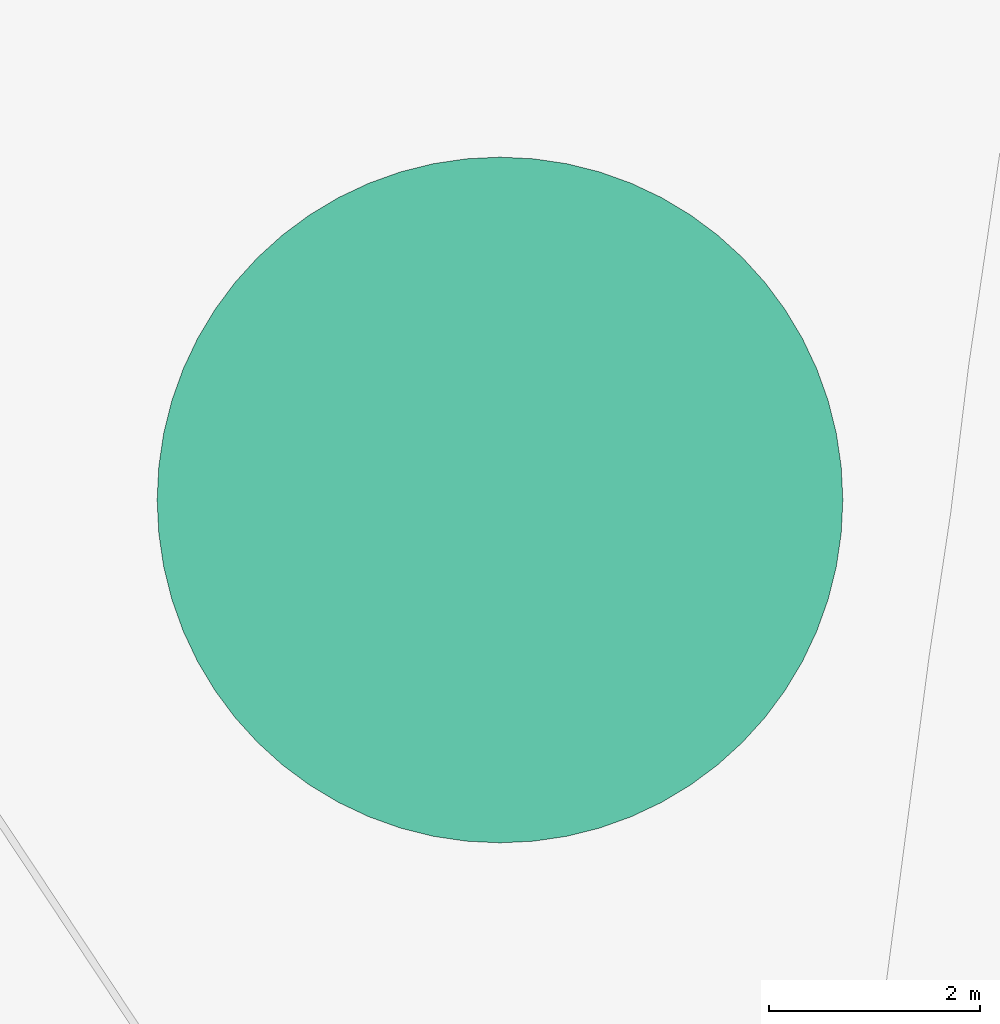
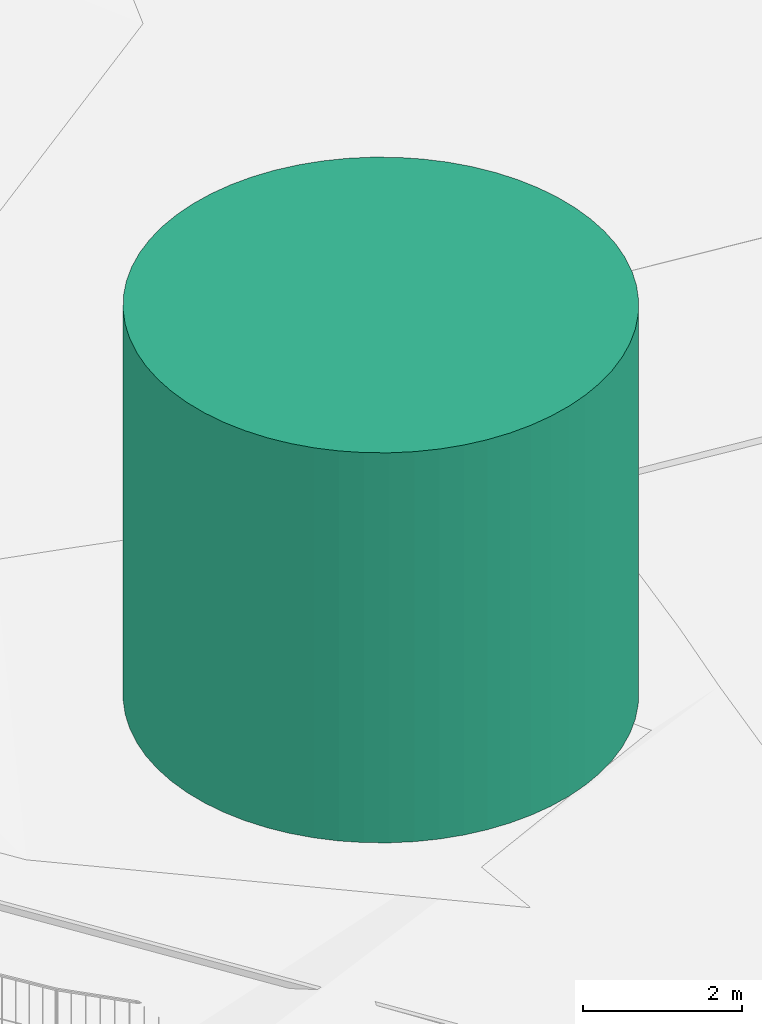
# Not in any storey, part 29 of 75: 1 tank.
"""IFC4 model written with IfcOpenShell, lengths in metres."""

from ifc_helpers import new_model, si_unit, direction, origin_with_axes, place, context, subcontext, project, spatial, triangles, element, save


model = new_model("IFC4")

# Units and contexts
model_context = context("Model", 3, precision=1e-05, world=origin_with_axes(), true_north=direction((0.0, 1.0)))
body_context = subcontext(model_context, "Body", "Model", "MODEL_VIEW")
ifc_project = project(units=[si_unit("AREAUNIT", "SQUARE_METRE"), si_unit("VOLUMEUNIT", "CUBIC_METRE"), si_unit("LENGTHUNIT", "METRE")], contexts=[model_context])

# Site
site_placement = place(None, origin_with_axes())
site = spatial("IfcSite", under=ifc_project, at=site_placement, Name="Parcela industrial Jinhong")

# Tank
tank_placement = place(site_placement, origin_with_axes())
element("IfcTank", 1, at=tank_placement, inside=site, Name="Depósito de agua contra incendios · altura provisional de 6 m", PredefinedType="STORAGE", context=body_context, shape_type="Tessellation", body=[
    triangles([(4.50035, 31.60764, 1.1), (7.75035, 31.60764, 1.1), (7.75035, 31.60764, 7.1), (4.50035, 31.60764, 7.1), (7.7347, 31.926196, 1.1), (7.7347, 31.926196, 7.1), (7.687902, 32.241684, 1.1), (7.687902, 32.241684, 7.1), (7.610406, 32.551065, 1.1), (7.610406, 32.551065, 7.1), (7.502958, 32.851361, 1.1), (7.502958, 32.851361, 7.1), (7.366594, 33.139679, 1.1), (7.366594, 33.139679, 7.1), (7.202626, 33.413243, 1.1), (7.202626, 33.413243, 7.1), (7.012634, 33.669418, 1.1), (7.012634, 33.669418, 7.1), (6.798447, 33.905737, 1.1), (6.798447, 33.905737, 7.1), (6.562128, 34.119924, 1.1), (6.562128, 34.119924, 7.1), (6.305953, 34.309916, 1.1), (6.305953, 34.309916, 7.1), (6.032389, 34.473884, 1.1), (6.032389, 34.473884, 7.1), (5.744071, 34.610248, 1.1), (5.744071, 34.610248, 7.1), (5.443775, 34.717696, 1.1), (5.443775, 34.717696, 7.1), (5.134394, 34.795192, 1.1), (5.134394, 34.795192, 7.1), (4.818906, 34.84199, 1.1), (4.818906, 34.84199, 7.1), (4.50035, 34.85764, 1.1), (4.50035, 34.85764, 7.1), (4.181794, 34.84199, 1.1), (4.181794, 34.84199, 7.1), (3.866306, 34.795192, 1.1), (3.866306, 34.795192, 7.1), (3.556925, 34.717696, 1.1), (3.556925, 34.717696, 7.1), (3.256629, 34.610248, 1.1), (3.256629, 34.610248, 7.1), (2.968311, 34.473884, 1.1), (2.968311, 34.473884, 7.1), (2.694747, 34.309916, 1.1), (2.694747, 34.309916, 7.1), (2.438572, 34.119924, 1.1), (2.438572, 34.119924, 7.1), (2.202253, 33.905737, 1.1), (2.202253, 33.905737, 7.1), (1.988066, 33.669418, 1.1), (1.988066, 33.669418, 7.1), (1.798074, 33.413243, 1.1), (1.798074, 33.413243, 7.1), (1.634106, 33.139679, 1.1), (1.634106, 33.139679, 7.1), (1.497742, 32.851361, 1.1), (1.497742, 32.851361, 7.1), (1.390294, 32.551065, 1.1), (1.390294, 32.551065, 7.1), (1.312798, 32.241684, 1.1), (1.312798, 32.241684, 7.1), (1.266, 31.926196, 1.1), (1.266, 31.926196, 7.1), (1.25035, 31.60764, 1.1), (1.25035, 31.60764, 7.1), (1.266, 31.289084, 1.1), (1.266, 31.289084, 7.1), (1.312798, 30.973596, 1.1), (1.312798, 30.973596, 7.1), (1.390294, 30.664215, 1.1), (1.390294, 30.664215, 7.1), (1.497742, 30.363919, 1.1), (1.497742, 30.363919, 7.1), (1.634106, 30.075601, 1.1), (1.634106, 30.075601, 7.1), (1.798074, 29.802037, 1.1), (1.798074, 29.802037, 7.1), (1.988066, 29.545862, 1.1), (1.988066, 29.545862, 7.1), (2.202253, 29.309543, 1.1), (2.202253, 29.309543, 7.1), (2.438572, 29.095356, 1.1), (2.438572, 29.095356, 7.1), (2.694747, 28.905364, 1.1), (2.694747, 28.905364, 7.1), (2.968311, 28.741396, 1.1), (2.968311, 28.741396, 7.1), (3.256629, 28.605032, 1.1), (3.256629, 28.605032, 7.1), (3.556925, 28.497584, 1.1), (3.556925, 28.497584, 7.1), (3.866306, 28.420088, 1.1), (3.866306, 28.420088, 7.1), (4.181794, 28.37329, 1.1), (4.181794, 28.37329, 7.1), (4.50035, 28.35764, 1.1), (4.50035, 28.35764, 7.1), (4.818906, 28.37329, 1.1), (4.818906, 28.37329, 7.1), (5.134394, 28.420088, 1.1), (5.134394, 28.420088, 7.1), (5.443775, 28.497584, 1.1), (5.443775, 28.497584, 7.1), (5.744071, 28.605032, 1.1), (5.744071, 28.605032, 7.1), (6.032389, 28.741396, 1.1), (6.032389, 28.741396, 7.1), (6.305953, 28.905364, 1.1), (6.305953, 28.905364, 7.1), (6.562128, 29.095356, 1.1), (6.562128, 29.095356, 7.1), (6.798447, 29.309543, 1.1), (6.798447, 29.309543, 7.1), (7.012634, 29.545862, 1.1), (7.012634, 29.545862, 7.1), (7.202626, 29.802037, 1.1), (7.202626, 29.802037, 7.1), (7.366594, 30.075601, 1.1), (7.366594, 30.075601, 7.1), (7.502958, 30.363919, 1.1), (7.502958, 30.363919, 7.1), (7.610406, 30.664215, 1.1), (7.610406, 30.664215, 7.1), (7.687902, 30.973596, 1.1), (7.687902, 30.973596, 7.1), (7.7347, 31.289084, 1.1), (7.7347, 31.289084, 7.1)], [[2, 1, 5], [2, 5, 3], [3, 5, 6], [3, 6, 4], [5, 1, 7], [5, 7, 6], [6, 7, 8], [6, 8, 4], [7, 1, 9], [7, 9, 8], [8, 9, 10], [8, 10, 4], [9, 1, 11], [9, 11, 10], [10, 11, 12], [10, 12, 4], [11, 1, 13], [11, 13, 12], [12, 13, 14], [12, 14, 4], [13, 1, 15], [13, 15, 14], [14, 15, 16], [14, 16, 4], [15, 1, 17], [15, 17, 16], [16, 17, 18], [16, 18, 4], [17, 1, 19], [17, 19, 18], [18, 19, 20], [18, 20, 4], [19, 1, 21], [19, 21, 20], [20, 21, 22], [20, 22, 4], [21, 1, 23], [21, 23, 22], [22, 23, 24], [22, 24, 4], [23, 1, 25], [23, 25, 24], [24, 25, 26], [24, 26, 4], [25, 1, 27], [25, 27, 26], [26, 27, 28], [26, 28, 4], [27, 1, 29], [27, 29, 28], [28, 29, 30], [28, 30, 4], [29, 1, 31], [29, 31, 30], [30, 31, 32], [30, 32, 4], [31, 1, 33], [31, 33, 32], [32, 33, 34], [32, 34, 4], [33, 1, 35], [33, 35, 34], [34, 35, 36], [34, 36, 4], [35, 1, 37], [35, 37, 36], [36, 37, 38], [36, 38, 4], [37, 1, 39], [37, 39, 38], [38, 39, 40], [38, 40, 4], [39, 1, 41], [39, 41, 40], [40, 41, 42], [40, 42, 4], [41, 1, 43], [41, 43, 42], [42, 43, 44], [42, 44, 4], [43, 1, 45], [43, 45, 44], [44, 45, 46], [44, 46, 4], [45, 1, 47], [45, 47, 46], [46, 47, 48], [46, 48, 4], [47, 1, 49], [47, 49, 48], [48, 49, 50], [48, 50, 4], [49, 1, 51], [49, 51, 50], [50, 51, 52], [50, 52, 4], [51, 1, 53], [51, 53, 52], [52, 53, 54], [52, 54, 4], [53, 1, 55], [53, 55, 54], [54, 55, 56], [54, 56, 4], [55, 1, 57], [55, 57, 56], [56, 57, 58], [56, 58, 4], [57, 1, 59], [57, 59, 58], [58, 59, 60], [58, 60, 4], [59, 1, 61], [59, 61, 60], [60, 61, 62], [60, 62, 4], [61, 1, 63], [61, 63, 62], [62, 63, 64], [62, 64, 4], [63, 1, 65], [63, 65, 64], [64, 65, 66], [64, 66, 4], [65, 1, 67], [65, 67, 66], [66, 67, 68], [66, 68, 4], [67, 1, 69], [67, 69, 68], [68, 69, 70], [68, 70, 4], [69, 1, 71], [69, 71, 70], [70, 71, 72], [70, 72, 4], [71, 1, 73], [71, 73, 72], [72, 73, 74], [72, 74, 4], [73, 1, 75], [73, 75, 74], [74, 75, 76], [74, 76, 4], [75, 1, 77], [75, 77, 76], [76, 77, 78], [76, 78, 4], [77, 1, 79], [77, 79, 78], [78, 79, 80], [78, 80, 4], [79, 1, 81], [79, 81, 80], [80, 81, 82], [80, 82, 4], [81, 1, 83], [81, 83, 82], [82, 83, 84], [82, 84, 4], [83, 1, 85], [83, 85, 84], [84, 85, 86], [84, 86, 4], [85, 1, 87], [85, 87, 86], [86, 87, 88], [86, 88, 4], [87, 1, 89], [87, 89, 88], [88, 89, 90], [88, 90, 4], [89, 1, 91], [89, 91, 90], [90, 91, 92], [90, 92, 4], [91, 1, 93], [91, 93, 92], [92, 93, 94], [92, 94, 4], [93, 1, 95], [93, 95, 94], [94, 95, 96], [94, 96, 4], [95, 1, 97], [95, 97, 96], [96, 97, 98], [96, 98, 4], [97, 1, 99], [97, 99, 98], [98, 99, 100], [98, 100, 4], [99, 1, 101], [99, 101, 100], [100, 101, 102], [100, 102, 4], [101, 1, 103], [101, 103, 102], [102, 103, 104], [102, 104, 4], [103, 1, 105], [103, 105, 104], [104, 105, 106], [104, 106, 4], [105, 1, 107], [105, 107, 106], [106, 107, 108], [106, 108, 4], [107, 1, 109], [107, 109, 108], [108, 109, 110], [108, 110, 4], [109, 1, 111], [109, 111, 110], [110, 111, 112], [110, 112, 4], [111, 1, 113], [111, 113, 112], [112, 113, 114], [112, 114, 4], [113, 1, 115], [113, 115, 114], [114, 115, 116], [114, 116, 4], [115, 1, 117], [115, 117, 116], [116, 117, 118], [116, 118, 4], [117, 1, 119], [117, 119, 118], [118, 119, 120], [118, 120, 4], [119, 1, 121], [119, 121, 120], [120, 121, 122], [120, 122, 4], [121, 1, 123], [121, 123, 122], [122, 123, 124], [122, 124, 4], [123, 1, 125], [123, 125, 124], [124, 125, 126], [124, 126, 4], [125, 1, 127], [125, 127, 126], [126, 127, 128], [126, 128, 4], [127, 1, 129], [127, 129, 128], [128, 129, 130], [128, 130, 4], [129, 1, 2], [129, 2, 130], [130, 2, 3], [130, 3, 4]], closed=True),
])

save(model, "model.ifc")
